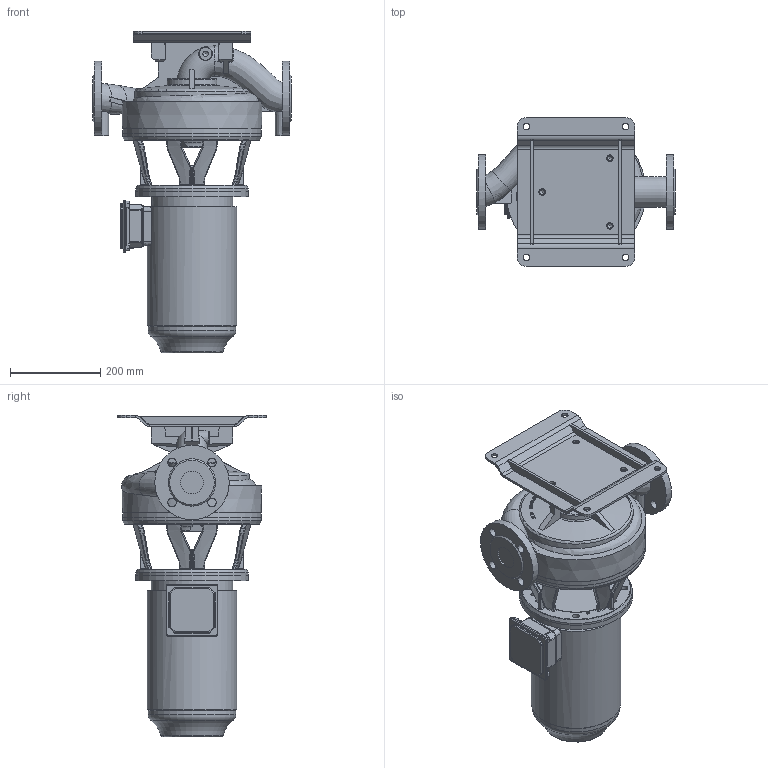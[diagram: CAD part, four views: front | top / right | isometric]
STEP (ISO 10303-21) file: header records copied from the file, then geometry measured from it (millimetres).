
FILE_DESCRIPTION (( 'STEP AP203' ), '1' );
FILE_NAME ('KI50-220_4_3kW.STEP', '2024-07-30T07:03:05', ( '' ), ( '' ), 'SwSTEP 2.0', 'SolidWorks 2023', '' );
FILE_SCHEMA (( 'CONFIG_CONTROL_DESIGN' ));
Length unit declared in the file: millimetre
Products named in the file (11): 230572; 230034; 230568; 230033; 220528; KI50-220_4_3kW; 230531; 220527; 230530; HMA4_100L_2-4_B5_solid; 230031
Assembly tree (11 placements, depth 3):
  KI50-220_4_3kW
    HMA4_100L_2-4_B5_solid
    230531
      230530
    230568
      230572
    220528
      220527
    230034
      230031
      230033  x2
Bounding box: 440 x 330.18 x 712.45 mm (x, y, z)
Volume: 23500844.5 mm3; surface area: 1427142.5 mm2
Topology: 7 solids, 7 shells, 1129 faces, 2889 edges, 1775 vertices
Faces by surface type: bspline 375, plane 348, cylinder 244, cone 83, torus 71, sphere 8
Full cylindrical faces by diameter (mm): 6 x2, 6.8 x8, 10 x4, 10.2 x11, 11.445 x1, 11.8 x3, 14 x16, 14.5 x11, 15 x4, 19 x8, 50 x2, 180 x2, 195 x1, 199 x1, 225 x1, 243 x1, 246 x1, 250 x2, 255 x2, 308 x2
Entity records: 91081 total; most frequent: CARTESIAN_POINT 66912, ORIENTED_EDGE 5332, DIRECTION 3739, EDGE_CURVE 2666, VERTEX_POINT 1705, AXIS2_PLACEMENT_3D 1488, EDGE_LOOP 1383, FACE_OUTER_BOUND 1212
